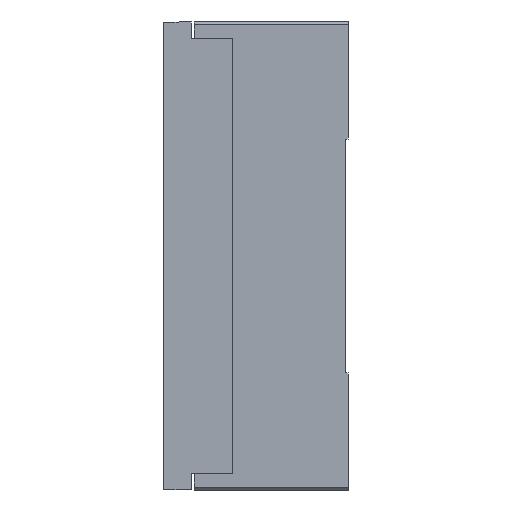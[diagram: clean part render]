
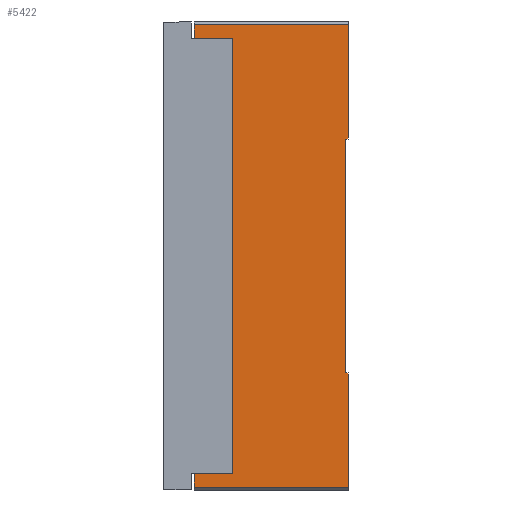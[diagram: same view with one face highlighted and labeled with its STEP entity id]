
A CAD part, left-side view. The second image highlights one B-rep face of the part: STEP entity #5422.
In plain terms, the highlighted planar face has unit normal (-1, 0, 0).
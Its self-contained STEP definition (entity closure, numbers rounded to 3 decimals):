
#109 = EDGE_CURVE ( 'NONE', #4101, #29876, #42277, .T. ) ;
#926 = FACE_OUTER_BOUND ( 'NONE', #3999, .T. ) ;
#1587 = VERTEX_POINT ( 'NONE', #21063 ) ;
#1888 = VERTEX_POINT ( 'NONE', #18929 ) ;
#3935 = ORIENTED_EDGE ( 'NONE', *, *, #36708, .T. ) ;
#3999 = EDGE_LOOP ( 'NONE', ( #3935, #37754, #6461, #9327, #42343, #10479, #22388, #37536, #19304, #36274, #6609, #15855 ) ) ;
#4101 = VERTEX_POINT ( 'NONE', #20525 ) ;
#5422 = ADVANCED_FACE ( 'NONE', ( #926 ), #36415, .T. ) ;
#5613 = CARTESIAN_POINT ( 'NONE',  ( -132.5, 56., 79. ) ) ;
#5655 = LINE ( 'NONE', #29857, #7803 ) ;
#6461 = ORIENTED_EDGE ( 'NONE', *, *, #28554, .F. ) ;
#6609 = ORIENTED_EDGE ( 'NONE', *, *, #15820, .F. ) ;
#7803 = VECTOR ( 'NONE', #35686, 1000. ) ;
#8203 = DIRECTION ( 'NONE',  ( 0., -1., 0. ) ) ;
#9017 = VECTOR ( 'NONE', #30780, 1000. ) ;
#9327 = ORIENTED_EDGE ( 'NONE', *, *, #11278, .T. ) ;
#10015 = CARTESIAN_POINT ( 'NONE',  ( -132.5, 1., -42.5 ) ) ;
#10479 = ORIENTED_EDGE ( 'NONE', *, *, #33907, .F. ) ;
#11244 = LINE ( 'NONE', #25152, #13931 ) ;
#11278 = EDGE_CURVE ( 'NONE', #38527, #15991, #40597, .T. ) ;
#11746 = CARTESIAN_POINT ( 'NONE',  ( -132.5, 42., 69. ) ) ;
#11768 = VECTOR ( 'NONE', #15791, 1000. ) ;
#12274 = CARTESIAN_POINT ( 'NONE',  ( -132.5, 0., 42.5 ) ) ;
#13931 = VECTOR ( 'NONE', #8203, 1000. ) ;
#14428 = LINE ( 'NONE', #32040, #22864 ) ;
#14682 = LINE ( 'NONE', #29786, #26013 ) ;
#14693 = LINE ( 'NONE', #41962, #17987 ) ;
#15095 = DIRECTION ( 'NONE',  ( 0., 0., -1. ) ) ;
#15791 = DIRECTION ( 'NONE',  ( 0., 0., 1. ) ) ;
#15820 = EDGE_CURVE ( 'NONE', #34455, #1587, #42004, .T. ) ;
#15855 = ORIENTED_EDGE ( 'NONE', *, *, #38055, .T. ) ;
#15991 = VERTEX_POINT ( 'NONE', #43694 ) ;
#16344 = DIRECTION ( 'NONE',  ( -1., 0., 0. ) ) ;
#17987 = VECTOR ( 'NONE', #38636, 1000. ) ;
#18929 = CARTESIAN_POINT ( 'NONE',  ( -132.5, 0., 84. ) ) ;
#19304 = ORIENTED_EDGE ( 'NONE', *, *, #23863, .F. ) ;
#19525 = VERTEX_POINT ( 'NONE', #19937 ) ;
#19748 = VECTOR ( 'NONE', #15095, 1000. ) ;
#19937 = CARTESIAN_POINT ( 'NONE',  ( -132.5, 56., -79. ) ) ;
#20525 = CARTESIAN_POINT ( 'NONE',  ( -132.5, 1., 42.5 ) ) ;
#21063 = CARTESIAN_POINT ( 'NONE',  ( -132.5, 56., 84. ) ) ;
#22064 = DIRECTION ( 'NONE',  ( 0., 0., -1. ) ) ;
#22154 = CARTESIAN_POINT ( 'NONE',  ( -132.5, 1., -42.5 ) ) ;
#22364 = EDGE_CURVE ( 'NONE', #4101, #30883, #5655, .T. ) ;
#22388 = ORIENTED_EDGE ( 'NONE', *, *, #109, .F. ) ;
#22864 = VECTOR ( 'NONE', #32024, 1000. ) ;
#22975 = EDGE_CURVE ( 'NONE', #38469, #15991, #42930, .T. ) ;
#23852 = CARTESIAN_POINT ( 'NONE',  ( -132.5, 56., 85. ) ) ;
#23863 = EDGE_CURVE ( 'NONE', #1888, #30883, #14428, .T. ) ;
#25152 = CARTESIAN_POINT ( 'NONE',  ( -132.5, 1., -42.5 ) ) ;
#25558 = CARTESIAN_POINT ( 'NONE',  ( -132.5, 0., -84. ) ) ;
#25571 = DIRECTION ( 'NONE',  ( 0., -1., 0. ) ) ;
#26013 = VECTOR ( 'NONE', #33262, 1000. ) ;
#27496 = CARTESIAN_POINT ( 'NONE',  ( -132.5, 56., -84. ) ) ;
#27726 = LINE ( 'NONE', #35211, #41841 ) ;
#28554 = EDGE_CURVE ( 'NONE', #38527, #19525, #35724, .T. ) ;
#29144 = CARTESIAN_POINT ( 'NONE',  ( -132.5, 0., 85. ) ) ;
#29322 = CARTESIAN_POINT ( 'NONE',  ( -132.5, 42., -79. ) ) ;
#29786 = CARTESIAN_POINT ( 'NONE',  ( -132.5, 56., 84. ) ) ;
#29857 = CARTESIAN_POINT ( 'NONE',  ( -132.5, 1., 42.5 ) ) ;
#29876 = VERTEX_POINT ( 'NONE', #10015 ) ;
#30356 = VERTEX_POINT ( 'NONE', #29322 ) ;
#30780 = DIRECTION ( 'NONE',  ( 0., 0., -1. ) ) ;
#30883 = VERTEX_POINT ( 'NONE', #12274 ) ;
#31127 = LINE ( 'NONE', #11746, #19748 ) ;
#32024 = DIRECTION ( 'NONE',  ( 0., 0., -1. ) ) ;
#32040 = CARTESIAN_POINT ( 'NONE',  ( -132.5, 0., 85. ) ) ;
#32162 = DIRECTION ( 'NONE',  ( 0., 0., 1. ) ) ;
#32218 = CARTESIAN_POINT ( 'NONE',  ( -132.5, 56., 85. ) ) ;
#33262 = DIRECTION ( 'NONE',  ( 0., 1., 0. ) ) ;
#33907 = EDGE_CURVE ( 'NONE', #29876, #38469, #11244, .T. ) ;
#34133 = CARTESIAN_POINT ( 'NONE',  ( -132.5, 0., -42.5 ) ) ;
#34455 = VERTEX_POINT ( 'NONE', #5613 ) ;
#35211 = CARTESIAN_POINT ( 'NONE',  ( -132.5, 56., -79. ) ) ;
#35686 = DIRECTION ( 'NONE',  ( 0., -1., 0. ) ) ;
#35724 = LINE ( 'NONE', #32218, #42183 ) ;
#36274 = ORIENTED_EDGE ( 'NONE', *, *, #42071, .T. ) ;
#36415 = PLANE ( 'NONE',  #37885 ) ;
#36708 = EDGE_CURVE ( 'NONE', #40093, #30356, #31127, .T. ) ;
#37536 = ORIENTED_EDGE ( 'NONE', *, *, #22364, .T. ) ;
#37621 = CARTESIAN_POINT ( 'NONE',  ( -132.5, 42., 79. ) ) ;
#37754 = ORIENTED_EDGE ( 'NONE', *, *, #39636, .T. ) ;
#37885 = AXIS2_PLACEMENT_3D ( 'NONE', #23852, #16344, #42920 ) ;
#38055 = EDGE_CURVE ( 'NONE', #34455, #40093, #14693, .T. ) ;
#38467 = CARTESIAN_POINT ( 'NONE',  ( -132.5, 56., 85. ) ) ;
#38469 = VERTEX_POINT ( 'NONE', #34133 ) ;
#38527 = VERTEX_POINT ( 'NONE', #27496 ) ;
#38636 = DIRECTION ( 'NONE',  ( 0., -1., 0. ) ) ;
#38741 = DIRECTION ( 'NONE',  ( 0., 1., 0. ) ) ;
#39573 = VECTOR ( 'NONE', #25571, 1000. ) ;
#39636 = EDGE_CURVE ( 'NONE', #30356, #19525, #27726, .T. ) ;
#40093 = VERTEX_POINT ( 'NONE', #37621 ) ;
#40597 = LINE ( 'NONE', #25558, #39573 ) ;
#40685 = VECTOR ( 'NONE', #22064, 1000. ) ;
#41841 = VECTOR ( 'NONE', #38741, 1000. ) ;
#41962 = CARTESIAN_POINT ( 'NONE',  ( -132.5, 56., 79. ) ) ;
#42004 = LINE ( 'NONE', #38467, #11768 ) ;
#42071 = EDGE_CURVE ( 'NONE', #1888, #1587, #14682, .T. ) ;
#42183 = VECTOR ( 'NONE', #32162, 1000. ) ;
#42277 = LINE ( 'NONE', #22154, #40685 ) ;
#42343 = ORIENTED_EDGE ( 'NONE', *, *, #22975, .F. ) ;
#42920 = DIRECTION ( 'NONE',  ( 0., 0., 1. ) ) ;
#42930 = LINE ( 'NONE', #29144, #9017 ) ;
#43694 = CARTESIAN_POINT ( 'NONE',  ( -132.5, 0., -84. ) ) ;
